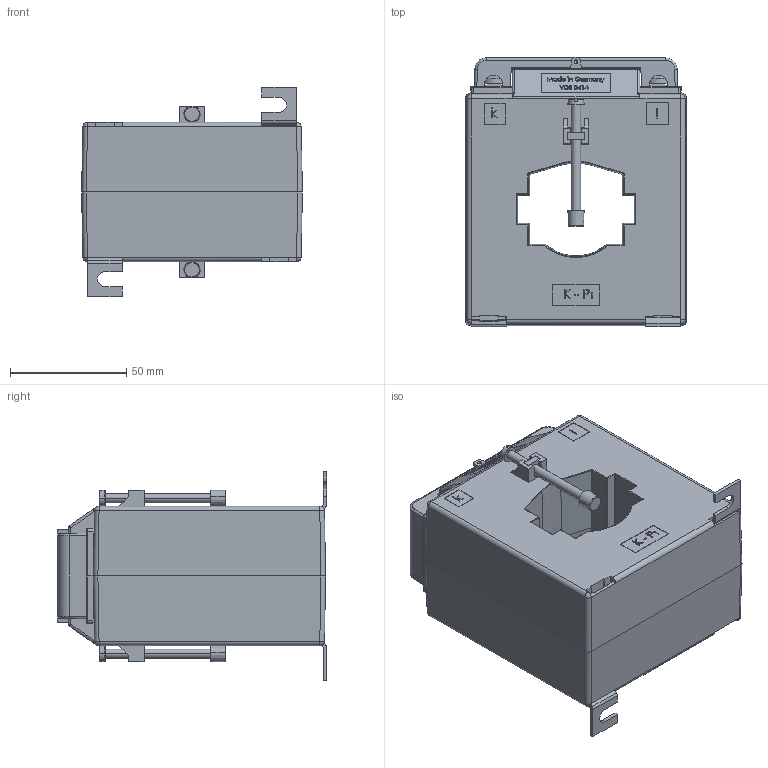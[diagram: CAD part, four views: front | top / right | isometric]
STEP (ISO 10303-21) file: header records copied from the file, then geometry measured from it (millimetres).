
FILE_DESCRIPTION (( 'STEP AP214' ), '1' );
FILE_NAME ('EASK51.6_kpl.STEP', '2011-11-30T07:47:50', ( ' ' ), ( '' ), 'SwSTEP 2.0', 'SolidWorks 2010', '' );
FILE_SCHEMA (( 'AUTOMOTIVE_DESIGN' ));
Length unit declared in the file: millimetre
Products named in the file (9): ASK51.6_11; Linsenschraube DIN 7985 4.8 VZ M 5 x 10; MBS_WN-003_04_Klemme_WN-003_02; Vierkantmutter_M4; Zylinderschraube DIN 84 4.8 VG M 4 x 50; Plombierabdeckung_ASK31_6_01; Fusswinkel_1,5; Isolierschutzkappe; EASK51.6_kpl
Assembly tree (17 placements, depth 2):
  EASK51.6_kpl
    Fusswinkel_1,5  x2
    ASK51.6_11  x2
    MBS_WN-003_04_Klemme_WN-003_02  x2
    Plombierabdeckung_ASK31_6_01
    Isolierschutzkappe  x2
    Zylinderschraube DIN 84 4.8 VG M 4 x 50  x2
    Vierkantmutter_M4  x2
    Linsenschraube DIN 7985 4.8 VZ M 5 x 10  x4
Bounding box: 95 x 116 x 90 mm (x, y, z)
Volume: 503891 mm3; surface area: 91076 mm2
Topology: 19 solids, 19 shells, 1580 faces, 4069 edges, 2604 vertices
Faces by surface type: plane 982, bspline 270, cylinder 211, sphere 46, torus 36, cone 35
Entity records: 31194 total; most frequent: CARTESIAN_POINT 11815, ORIENTED_EDGE 4238, DIRECTION 3381, EDGE_CURVE 2119, VECTOR 1487, LINE 1487, VERTEX_POINT 1371, AXIS2_PLACEMENT_3D 947
